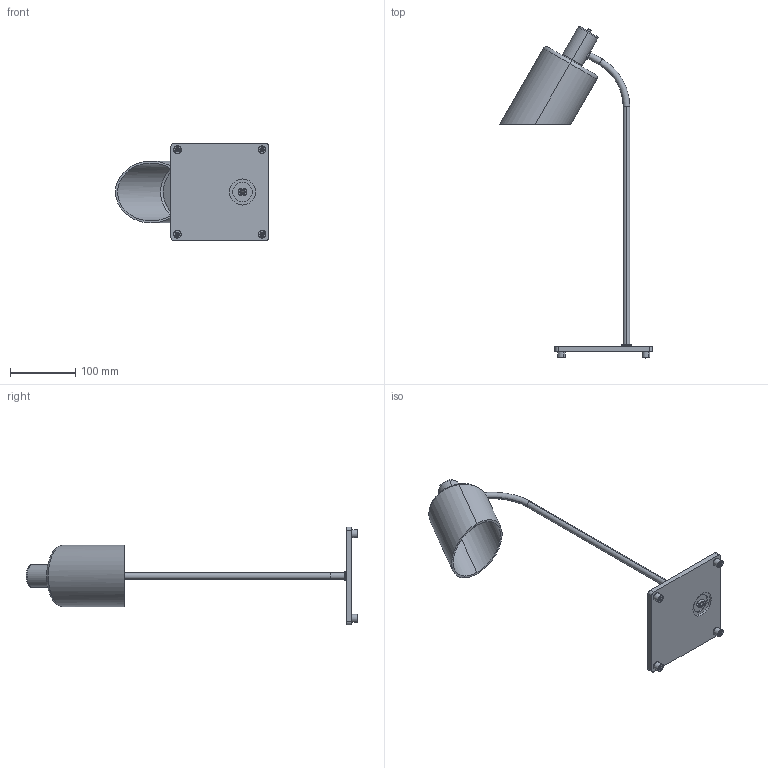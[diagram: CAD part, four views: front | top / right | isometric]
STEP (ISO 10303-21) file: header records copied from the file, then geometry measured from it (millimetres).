
FILE_DESCRIPTION (( 'STEP AP214' ), '1' );
FILE_NAME ('Lampe de bureau_As_Per sito.STEP', '2022-10-21T08:58:43', ( '' ), ( '' ), 'SwSTEP 2.0', 'SolidWorks 2016', '' );
FILE_SCHEMA (( 'AUTOMOTIVE_DESIGN' ));
Length unit declared in the file: millimetre
Products named in the file (13): Raccordo base; Lampe de bureau_As_Per sito; Vite M3x8 TSICR_B18.6.7M - M3 x 0.5 x 8 Type I Cross Recessed FHMS --8N; Tubo corpo; Tappo testa; Raccordo testa; Interruttore openwise; Tubo corpo con inserti_As; Base; Vetro; Distanziale base; Ghiera tornita; Tubo testa
Assembly tree (16 placements, depth 3):
  Lampe de bureau_As_Per sito
    Base
    Tubo corpo con inserti_As
      Tubo corpo
      Raccordo base
      Raccordo testa
    Distanziale base  x4
    Tubo testa
    Tappo testa
    Vetro
    Ghiera tornita
    Vite M3x8 TSICR_B18.6.7M - M3 x 0.5 x 8 Type I Cross Recessed FHMS --8N  x2
    Interruttore openwise
Bounding box: 235.3 x 510.25 x 150 mm (x, y, z)
Volume: 326857.7 mm3; surface area: 177416.8 mm2
Topology: 15 solids, 15 shells, 306 faces, 673 edges, 408 vertices
Faces by surface type: cylinder 114, plane 99, cone 64, torus 24, bspline 4, sphere 1
Entity records: 9558 total; most frequent: CARTESIAN_POINT 3195, DIRECTION 1258, ORIENTED_EDGE 1088, EDGE_CURVE 544, AXIS2_PLACEMENT_3D 495, VERTEX_POINT 338, EDGE_LOOP 304, LINE 268
